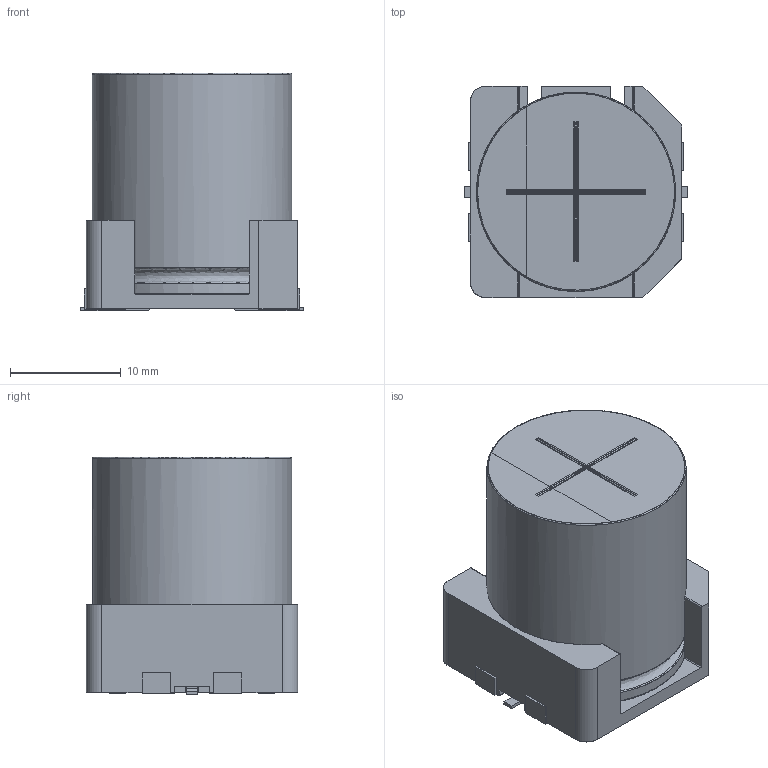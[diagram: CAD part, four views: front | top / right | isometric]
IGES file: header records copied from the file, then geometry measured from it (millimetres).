
Start section: JAMA-IS VERSION  1.0
Bounding box: 20.1 x 19.1 x 21.5 mm (x, y, z)
Surface area: 3375.4 mm2 (no closed solid volume)
Topology: 0 solids, 0 shells, 186 faces, 1585 edges, 1562 vertices
Faces by surface type: bspline 186
